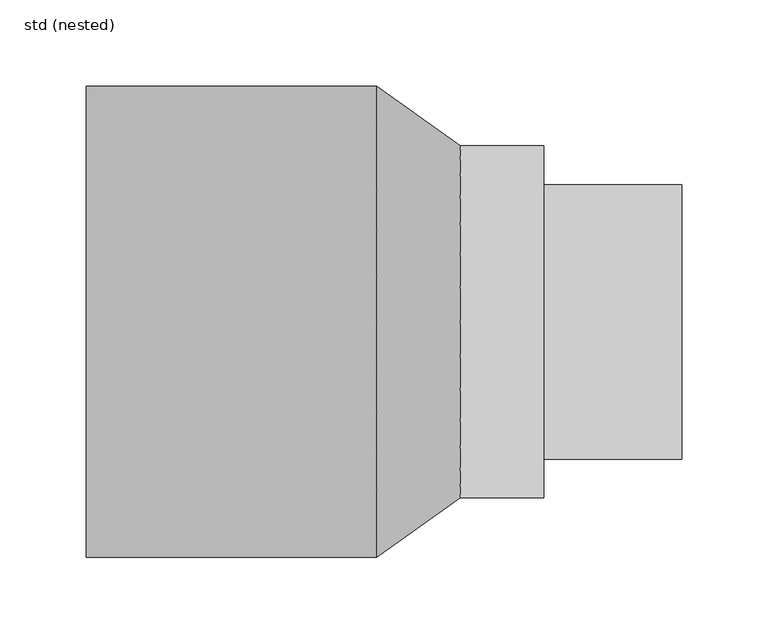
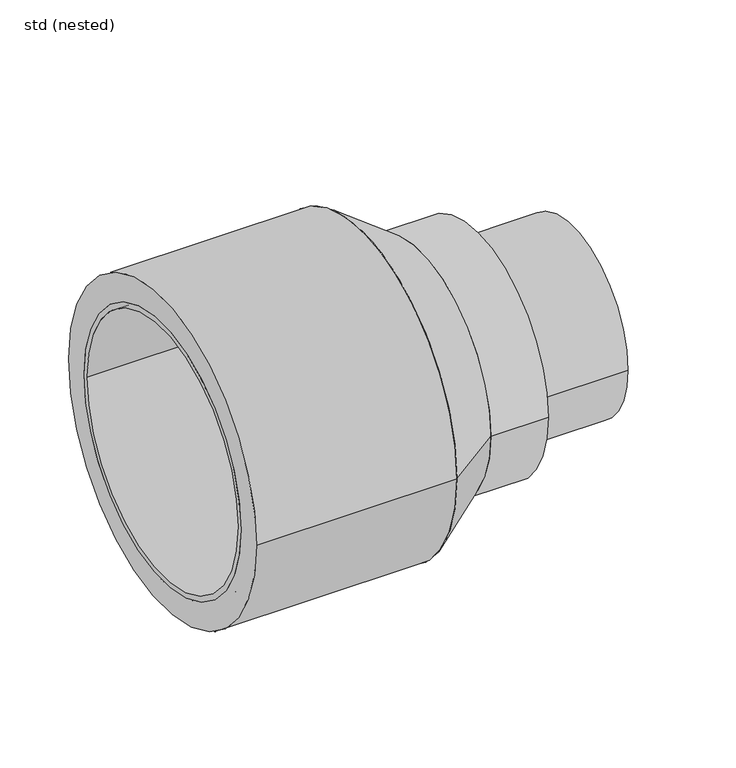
"""IFC4 building model written with IfcOpenShell, lengths in millimetres: pipe fitting geometry, ZZZ_do not use_PIF_ST_WPB_GM-X compound pipe optimiser_ACO : std (nested)."""

from ifc_helpers import new_model, si_unit, point, frame, origin, origin_2d, place, context, project, spatial, polyline, circle_curve, trimmed, segment, composite_curve, outline, extrude, source, transform, mapped, element, save
from ifc_brep_helpers import plane_surface, cylinder_surface, revolved_surface, advanced_brep


def std_nested_4c8aca36(model_context):
    return source(origin(), model_context, "Body", "SolidModel", [
        advanced_brep(
        [(-104.4, 123.7, 0.0), (-44.0, 123.7, 0.0), (-44.0, -123.7, 0.0), (-104.4, -123.7, 0.0), (-120.0, -114.0, 0.0), (-120.0, 114.0, 0.0), (-120.0, 109.5, 0.0), (-120.0, -109.5, 0.0), (0.0, -114.0, 0.0), (0.0, 114.0, 0.0), (0.0, -109.5, 0.0), (0.0, 109.5, 0.0), (-44.0, -114.0, 0.0), (-44.0, 114.0, 0.0), (-104.4, 114.0, 0.0), (-104.4, -114.0, 0.0)],
        [
            (0, 1),
            (1, 2, circle_curve(frame((-44.0, 0.0, 0.0), z_axis=(-1.0, 0.0, 0.0), x_axis=(0.0, 1.0, 0.0)), 123.7)),
            (2, 3),
            (3, 0, circle_curve(frame((-104.4, 0.0, 0.0), z_axis=(1.0, 0.0, 0.0), x_axis=(0.0, 1.0, 0.0)), 123.7)),
            (2, 1, circle_curve(frame((-44.0, 0.0, 0.0), z_axis=(-1.0, 0.0, 0.0), x_axis=(0.0, 1.0, 0.0)), 123.7)),
            (0, 3, circle_curve(frame((-104.4, 0.0, 0.0), z_axis=(1.0, 0.0, 0.0), x_axis=(0.0, 1.0, 0.0)), 123.7)),
            (4, 5, circle_curve(frame((-120.0, 0.0, 0.0), z_axis=(-1.0, 0.0, 0.0), x_axis=(0.0, 1.0, 0.0)), 114.0)),
            (5, 4, circle_curve(frame((-120.0, 0.0, 0.0), z_axis=(-1.0, 0.0, 0.0), x_axis=(0.0, 1.0, 0.0)), 114.0)),
            (6, 7, circle_curve(frame((-120.0, 0.0, 0.0), z_axis=(1.0, 0.0, 0.0), x_axis=(0.0, 1.0, 0.0)), 109.5)),
            (7, 6, circle_curve(frame((-120.0, 0.0, 0.0), z_axis=(1.0, 0.0, 0.0), x_axis=(0.0, 1.0, 0.0)), 109.5)),
            (8, 9, circle_curve(frame((0.0, 0.0, 0.0), z_axis=(1.0, 0.0, 0.0), x_axis=(0.0, 1.0, 0.0)), 114.0)),
            (9, 8, circle_curve(frame((0.0, 0.0, 0.0), z_axis=(1.0, 0.0, 0.0), x_axis=(0.0, 1.0, 0.0)), 114.0)),
            (10, 11, circle_curve(frame((0.0, 0.0, 0.0), z_axis=(-1.0, 0.0, 0.0), x_axis=(0.0, 1.0, 0.0)), 109.5)),
            (11, 10, circle_curve(frame((0.0, 0.0, 0.0), z_axis=(-1.0, 0.0, 0.0), x_axis=(0.0, 1.0, 0.0)), 109.5)),
            (8, 12),
            (12, 13, circle_curve(frame((-44.0, 0.0, 0.0), z_axis=(1.0, 0.0, 0.0), x_axis=(0.0, 1.0, 0.0)), 114.0)),
            (13, 9),
            (5, 14),
            (14, 15, circle_curve(frame((-104.4, 0.0, 0.0), z_axis=(-1.0, 0.0, 0.0), x_axis=(0.0, 1.0, 0.0)), 114.0)),
            (15, 4),
            (15, 14, circle_curve(frame((-104.4, 0.0, 0.0), z_axis=(-1.0, 0.0, 0.0), x_axis=(0.0, 1.0, 0.0)), 114.0)),
            (13, 12, circle_curve(frame((-44.0, 0.0, 0.0), z_axis=(1.0, 0.0, 0.0), x_axis=(0.0, 1.0, 0.0)), 114.0)),
            (7, 10),
            (11, 6),
        ],
        [
            cylinder_surface(frame((-44.0, 0.0, 0.0), z_axis=(-1.0, 0.0, 0.0), x_axis=(0.0, 1.0, 0.0)), 123.7),
            plane_surface(frame((-120.0, 114.0, 0.0), z_axis=(-1.0, 0.0, 0.0), x_axis=(0.0, 0.0, 1.0))),
            plane_surface(frame((0.0, 114.0, 0.0), z_axis=(1.0, 0.0, 0.0), x_axis=(0.0, 0.0, -1.0))),
            cylinder_surface(frame((0.0, 0.0, 0.0), z_axis=(-1.0, 0.0, 0.0), x_axis=(0.0, 1.0, 0.0)), 114.0),
            revolved_surface(polyline([(-120.0, 109.5, 0.0), (0.0, 109.5, 0.0)]), (0.0, 0.0, 0.0), (-1.0, 0.0, 0.0)),
            plane_surface(frame((-104.4, 123.7, 0.0), z_axis=(-1.0, 0.0, 0.0), x_axis=(0.0, 0.0, 1.0))),
            plane_surface(frame((-44.0, 123.7, 0.0), z_axis=(1.0, 0.0, 0.0), x_axis=(0.0, 0.0, -1.0))),
        ],
        [
            (0, [[1, 2, 3, 4]]),
            (0, [[-3, 5, -1, 6]]),
            (1, [[7, 8], [9, 10]]),
            (2, [[11, 12], [13, 14]]),
            (3, [[15, 16, 17, -11]]),
            (3, [[18, 19, 20, -8]]),
            (3, [[-20, 21, -18, -7]]),
            (3, [[-17, 22, -15, -12]]),
            (4, [[-10, 23, -14, 24]]),
            (4, [[-13, -23, -9, -24]]),
            (5, [[-6, -4], [-21, -19]]),
            (6, [[-2, -5], [-22, -16]]),
        ],
    ),
        advanced_brep(
        [(96.6666667, 102.0, 0.0), (96.6666667, -102.0, 0.0), (48.3333333, 136.5, 0.0), (48.3333333, -136.5, 0.0)],
        [
            (0, 1, circle_curve(frame((96.6666667, 0.0, 0.0), z_axis=(1.0, 0.0, 0.0), x_axis=(0.0, -1.0, 0.0)), 102.0)),
            (1, 0, circle_curve(frame((96.6666667, 0.0, 0.0), z_axis=(1.0, 0.0, 0.0), x_axis=(0.0, 1.0, 0.0)), 102.0)),
            (2, 3, circle_curve(frame((48.3333333, 0.0, 0.0), z_axis=(-1.0, 0.0, 0.0), x_axis=(0.0, 1.0, 0.0)), 136.5)),
            (3, 2, circle_curve(frame((48.3333333, 0.0, 0.0), z_axis=(-1.0, 0.0, 0.0), x_axis=(0.0, -1.0, 0.0)), 136.5)),
            (2, 0),
            (1, 3),
        ],
        [
            plane_surface(frame((96.6666667, 0.0, 0.0), z_axis=(1.0, 0.0, 0.0), x_axis=(0.0, 0.0, -1.0))),
            plane_surface(frame((48.3333333, 0.0, 0.0), z_axis=(-1.0, 0.0, 0.0), x_axis=(0.0, 0.0, -1.0))),
            revolved_surface(polyline([(96.66666670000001, 101.9999999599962, 0.0), (48.33333329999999, 136.5, 0.0)]), (239.5652174, 0.0, 0.0), (-1.0, 0.0, 0.0)),
            revolved_surface(polyline([(96.66666670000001, -101.9999999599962, 0.0), (48.33333329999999, -136.5, 0.0)]), (239.5652174, 0.0, 0.0), (-1.0, 0.0, 0.0)),
        ],
        [
            (0, [[1, 2]]),
            (1, [[3, 4]]),
            (2, [[5, -2, 6, -3]]),
            (3, [[-6, -1, -5, -4]]),
        ],
    ),
        advanced_brep(
        [(-120.0, 136.5, 0.0), (-120.0, -136.5, 0.0), (-120.0, -114.0, 0.0), (-120.0, 114.0, 0.0), (48.3333333, 136.5, 0.0), (48.3333333, -136.5, 0.0), (0.0, 114.0, 0.0), (0.0, -114.0, 0.0)],
        [
            (0, 1, circle_curve(frame((-120.0, 0.0, 0.0), z_axis=(-1.0, 0.0, 0.0), x_axis=(0.0, -1.0, 0.0)), 136.5)),
            (1, 0, circle_curve(frame((-120.0, 0.0, 0.0), z_axis=(-1.0, 0.0, 0.0), x_axis=(0.0, -1.0, 0.0)), 136.5)),
            (2, 3, circle_curve(frame((-120.0, 0.0, 0.0), z_axis=(1.0, 0.0, 0.0), x_axis=(0.0, -1.0, 0.0)), 114.0)),
            (3, 2, circle_curve(frame((-120.0, 0.0, 0.0), z_axis=(1.0, 0.0, 0.0), x_axis=(0.0, -1.0, 0.0)), 114.0)),
            (4, 5, circle_curve(frame((48.3333333, 0.0, 0.0), z_axis=(1.0, 0.0, 0.0), x_axis=(0.0, -1.0, 0.0)), 136.5)),
            (5, 4, circle_curve(frame((48.3333333, 0.0, 0.0), z_axis=(1.0, 0.0, 0.0), x_axis=(0.0, -1.0, 0.0)), 136.5)),
            (1, 5),
            (4, 0),
            (6, 7, circle_curve(frame((0.0, 0.0, 0.0), z_axis=(-1.0, 0.0, 0.0), x_axis=(0.0, -1.0, 0.0)), 114.0)),
            (7, 6, circle_curve(frame((0.0, 0.0, 0.0), z_axis=(-1.0, 0.0, 0.0), x_axis=(0.0, -1.0, 0.0)), 114.0)),
            (7, 2),
            (3, 6),
        ],
        [
            plane_surface(frame((-120.0, -136.5, 0.0), z_axis=(-1.0, 0.0, 0.0), x_axis=(0.0, 0.0, -1.0))),
            plane_surface(frame((48.3333333, -136.5, 0.0), z_axis=(1.0, 0.0, 0.0), x_axis=(0.0, 0.0, 1.0))),
            cylinder_surface(frame((48.3333333, 0.0, 0.0), z_axis=(-1.0, 0.0, 0.0), x_axis=(0.0, -1.0, 0.0)), 136.5),
            plane_surface(frame((0.0, -114.0, 0.0), z_axis=(-1.0, 0.0, 0.0), x_axis=(0.0, 0.0, 1.0))),
            revolved_surface(polyline([(-120.0, -114.0, 0.0), (0.0, -114.0, 0.0)]), (0.0, 0.0, 0.0), (-1.0, 0.0, 0.0)),
        ],
        [
            (0, [[1, 2], [3, 4]]),
            (1, [[5, 6]]),
            (2, [[7, -5, 8, -2]]),
            (2, [[-8, -6, -7, -1]]),
            (3, [[9, 10]]),
            (4, [[11, -4, 12, -10]]),
            (4, [[-12, -3, -11, -9]]),
        ],
    ),
        extrude(outline(composite_curve([segment(trimmed(circle_curve(origin_2d(), 102.0), [point((-102.0, 0.0))], [point((102.0, 0.0))], False, "CARTESIAN"), True, "CONTINUOUS"), segment(trimmed(circle_curve(origin_2d(), 102.0), [point((102.0, 0.0))], [point((-102.0, 0.0))], False, "CARTESIAN"), True, "CONTINUOUS")], self_intersect=False)), frame((96.6666667, 0.0, 0.0), z_axis=(1.0, 0.0, 0.0), x_axis=(0.0, 1.0, 0.0)), (0.0, 0.0, 1.0), 48.3333333),
        extrude(outline(composite_curve([segment(trimmed(circle_curve(origin_2d(), 79.5), [point((-79.5, 0.0))], [point((79.5, 0.0))], False, "CARTESIAN"), True, "CONTINUOUS"), segment(trimmed(circle_curve(origin_2d(), 79.5), [point((79.5, 0.0))], [point((-79.5, 0.0))], False, "CARTESIAN"), True, "CONTINUOUS")], self_intersect=False)), frame((145.0, 0.0, 0.0), z_axis=(1.0, 0.0, 0.0), x_axis=(0.0, 1.0, 0.0)), (0.0, 0.0, 1.0), 80.0),
    ])


if __name__ == "__main__":
    model = new_model("IFC4")
    model_context = context("Model", 3, world=origin())
    ifc_project = project(units=[si_unit("LENGTHUNIT", "METRE", prefix="MILLI")], contexts=[model_context])
    site = spatial("IfcSite", under=ifc_project)
    building = spatial("IfcBuilding", under=site)
    placement = place(None, origin())
    std_nested_shape = std_nested_4c8aca36(model_context)
    element("IfcPipeFitting", 1, ObjectType="ZZZ_do not use_PIF_ST_WPB_GM-X compound pipe optimiser_ACO : std (nested)", at=placement, inside=building, context=model_context, shape_type="MappedRepresentation", body=[
        mapped(std_nested_shape, transform((0.0, 0.0, 0.0), x_axis=(1.0, 0.0, 0.0), y_axis=(0.0, 1.0, 0.0), z_axis=(0.0, 0.0, 1.0))),
    ])
    save(model, "model.ifc")
